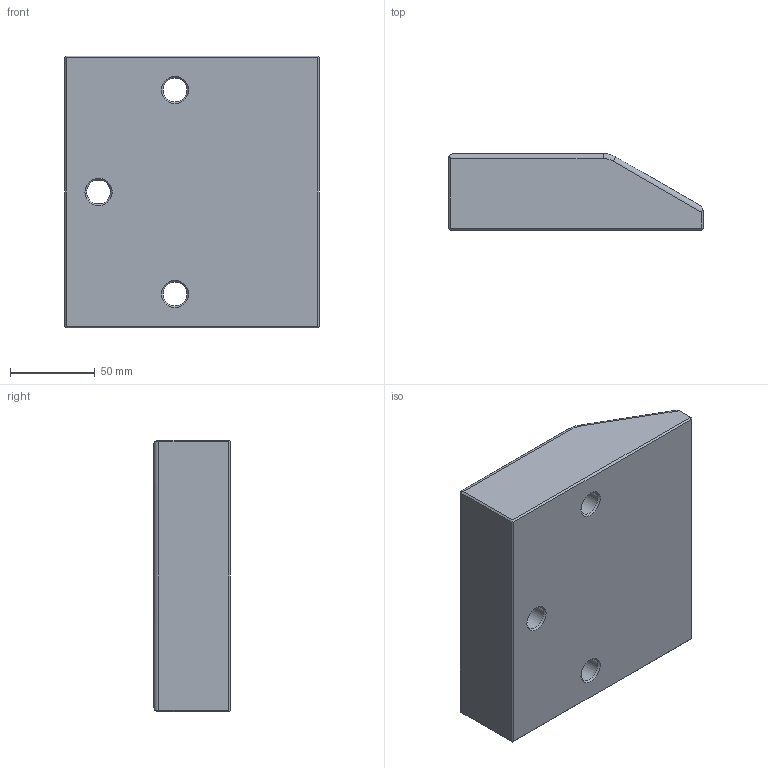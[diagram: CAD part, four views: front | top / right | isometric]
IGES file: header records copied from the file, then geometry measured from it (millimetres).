
Global section: file name: CA10.16045150.ipt; native system: Autodesk Inventor 2021; preprocessor: unknown; author: SM; date: 20211208.185051; units: millimetre
Bounding box: 150 x 45 x 160 mm (x, y, z)
Volume: 902912.8 mm3; surface area: 75673.7 mm2
Topology: 1 solids, 1 shells, 41 faces, 104 edges, 68 vertices
Faces by surface type: plane 20, revolution 14, cylinder 7
